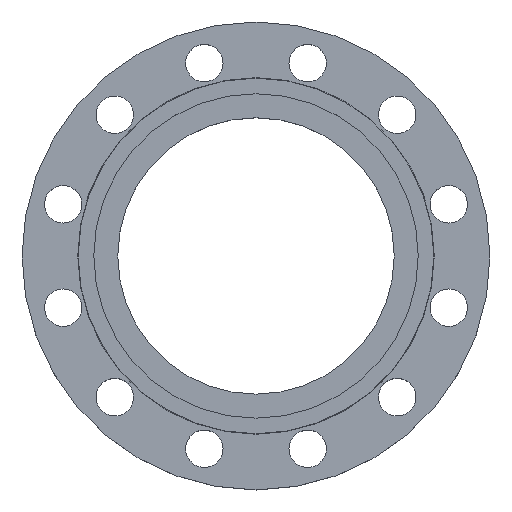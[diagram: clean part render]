
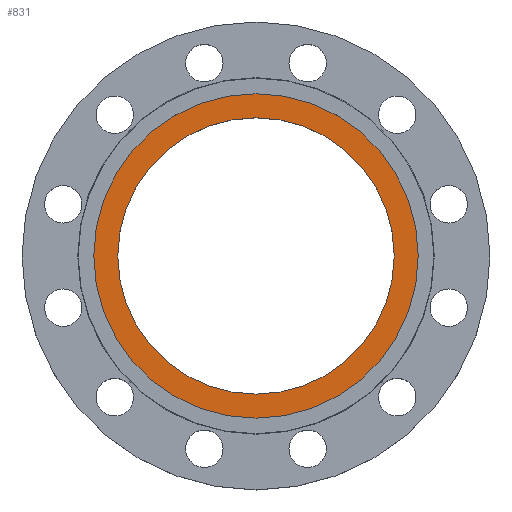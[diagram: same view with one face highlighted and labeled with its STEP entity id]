
A CAD part, top view. The second image highlights one B-rep face of the part: STEP entity #831.
In plain terms, the highlighted planar face has unit normal (0, 0, 1).
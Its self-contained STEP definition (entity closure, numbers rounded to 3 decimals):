
#51 = AXIS2_PLACEMENT_3D ( 'NONE', #1030, #131, #569 ) ;
#59 = DIRECTION ( 'NONE',  ( 0., 0., 1. ) ) ;
#67 = CARTESIAN_POINT ( 'NONE',  ( 130., 0., -4.5 ) ) ;
#102 = DIRECTION ( 'NONE',  ( 0., 0., -1. ) ) ;
#131 = DIRECTION ( 'NONE',  ( 0., 0., -1. ) ) ;
#141 = VERTEX_POINT ( 'NONE', #713 ) ;
#167 = FACE_OUTER_BOUND ( 'NONE', #1258, .T. ) ;
#214 = EDGE_CURVE ( 'NONE', #141, #376, #246, .T. ) ;
#246 = CIRCLE ( 'NONE', #249, 130. ) ;
#249 = AXIS2_PLACEMENT_3D ( 'NONE', #1009, #102, #535 ) ;
#374 = VERTEX_POINT ( 'NONE', #981 ) ;
#376 = VERTEX_POINT ( 'NONE', #67 ) ;
#377 = DIRECTION ( 'NONE',  ( 1., 0., 0. ) ) ;
#381 = DIRECTION ( 'NONE',  ( 0., 0., -1. ) ) ;
#404 = CARTESIAN_POINT ( 'NONE',  ( 110.75, 0., -4.5 ) ) ;
#486 = DIRECTION ( 'NONE',  ( 1., 0., 0. ) ) ;
#535 = DIRECTION ( 'NONE',  ( -1., 0., 0. ) ) ;
#569 = DIRECTION ( 'NONE',  ( 1., 0., 0. ) ) ;
#597 = CIRCLE ( 'NONE', #606, 110.75 ) ;
#602 = PLANE ( 'NONE',  #621 ) ;
#606 = AXIS2_PLACEMENT_3D ( 'NONE', #877, #1227, #377 ) ;
#618 = ORIENTED_EDGE ( 'NONE', *, *, #214, .F. ) ;
#621 = AXIS2_PLACEMENT_3D ( 'NONE', #976, #59, #486 ) ;
#624 = CIRCLE ( 'NONE', #626, 130. ) ;
#626 = AXIS2_PLACEMENT_3D ( 'NONE', #1232, #381, #793 ) ;
#662 = CIRCLE ( 'NONE', #51, 110.75 ) ;
#713 = CARTESIAN_POINT ( 'NONE',  ( -130., 0., -4.5 ) ) ;
#715 = ORIENTED_EDGE ( 'NONE', *, *, #1073, .T. ) ;
#793 = DIRECTION ( 'NONE',  ( -1., 0., 0. ) ) ;
#814 = EDGE_CURVE ( 'NONE', #915, #374, #597, .T. ) ;
#831 = ADVANCED_FACE ( 'NONE', ( #1057, #167 ), #602, .T. ) ;
#842 = EDGE_CURVE ( 'NONE', #376, #141, #624, .T. ) ;
#877 = CARTESIAN_POINT ( 'NONE',  ( 0., 0., -4.5 ) ) ;
#915 = VERTEX_POINT ( 'NONE', #404 ) ;
#976 = CARTESIAN_POINT ( 'NONE',  ( 130., 0., -4.5 ) ) ;
#981 = CARTESIAN_POINT ( 'NONE',  ( -110.75, 0., -4.5 ) ) ;
#989 = ORIENTED_EDGE ( 'NONE', *, *, #842, .F. ) ;
#1009 = CARTESIAN_POINT ( 'NONE',  ( 0., 0., -4.5 ) ) ;
#1029 = EDGE_LOOP ( 'NONE', ( #715, #1075 ) ) ;
#1030 = CARTESIAN_POINT ( 'NONE',  ( 0., 0., -4.5 ) ) ;
#1057 = FACE_BOUND ( 'NONE', #1029, .T. ) ;
#1073 = EDGE_CURVE ( 'NONE', #374, #915, #662, .T. ) ;
#1075 = ORIENTED_EDGE ( 'NONE', *, *, #814, .T. ) ;
#1227 = DIRECTION ( 'NONE',  ( 0., 0., -1. ) ) ;
#1232 = CARTESIAN_POINT ( 'NONE',  ( 0., 0., -4.5 ) ) ;
#1258 = EDGE_LOOP ( 'NONE', ( #618, #989 ) ) ;
